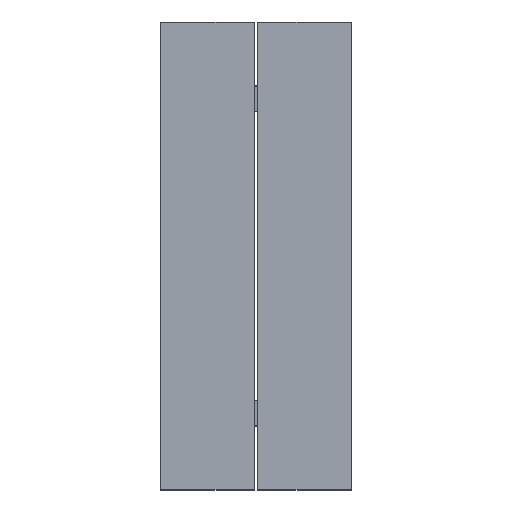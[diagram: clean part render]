
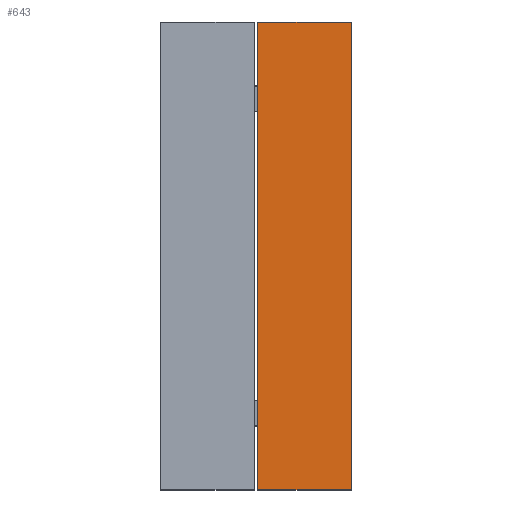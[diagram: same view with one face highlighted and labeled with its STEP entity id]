
A CAD part, top view. The second image highlights one B-rep face of the part: STEP entity #643.
In plain terms, the highlighted planar face has unit normal (0, 0, 1).
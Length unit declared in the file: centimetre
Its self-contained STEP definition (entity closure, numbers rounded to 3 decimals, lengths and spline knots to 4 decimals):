
#643=ADVANCED_FACE('',(#997),#4973,.T.);
#997=FACE_OUTER_BOUND('',#1351,.T.);
#1351=EDGE_LOOP('',(#2570,#2571,#2572,#2573));
#2570=ORIENTED_EDGE('',*,*,#3527,.F.);
#2571=ORIENTED_EDGE('',*,*,#3526,.F.);
#2572=ORIENTED_EDGE('',*,*,#3525,.F.);
#2573=ORIENTED_EDGE('',*,*,#3524,.F.);
#3524=EDGE_CURVE('',#4666,#4667,#4218,.T.);
#3525=EDGE_CURVE('',#4667,#4668,#4219,.T.);
#3526=EDGE_CURVE('',#4668,#4669,#4220,.T.);
#3527=EDGE_CURVE('',#4669,#4666,#4221,.T.);
#4218=B_SPLINE_CURVE_WITH_KNOTS('',1,(#8158,#8159),.UNSPECIFIED.,.F.,.F.,
(2,2),(0.1,219.9),.UNSPECIFIED.);
#4219=B_SPLINE_CURVE_WITH_KNOTS('',1,(#8160,#8161),.UNSPECIFIED.,.F.,.F.,
(2,2),(0.1,44.0377),.UNSPECIFIED.);
#4220=B_SPLINE_CURVE_WITH_KNOTS('',1,(#8162,#8163),.UNSPECIFIED.,.F.,.F.,
(2,2),(0.1,219.9),.UNSPECIFIED.);
#4221=B_SPLINE_CURVE_WITH_KNOTS('',1,(#8164,#8165),.UNSPECIFIED.,.F.,.F.,
(2,2),(0.1,44.0377),.UNSPECIFIED.);
#4666=VERTEX_POINT('',#8086);
#4667=VERTEX_POINT('',#8087);
#4668=VERTEX_POINT('',#8088);
#4669=VERTEX_POINT('',#8089);
#4973=PLANE('',#5199);
#5199=AXIS2_PLACEMENT_3D('',#7870,#5457,$);
#5457=DIRECTION('',(0.,0.,1.));
#7870=CARTESIAN_POINT('',(0.1123,0.,76.9848));
#8086=CARTESIAN_POINT('',(89.7877,219.9,76.9848));
#8087=CARTESIAN_POINT('',(89.7877,0.1,76.9848));
#8088=CARTESIAN_POINT('',(45.85,0.1,76.9848));
#8089=CARTESIAN_POINT('',(45.85,219.9,76.9848));
#8158=CARTESIAN_POINT('',(89.7877,219.9,76.9848));
#8159=CARTESIAN_POINT('',(89.7877,0.1,76.9848));
#8160=CARTESIAN_POINT('',(89.7877,0.1,76.9848));
#8161=CARTESIAN_POINT('',(45.85,0.1,76.9848));
#8162=CARTESIAN_POINT('',(45.85,0.1,76.9848));
#8163=CARTESIAN_POINT('',(45.85,219.9,76.9848));
#8164=CARTESIAN_POINT('',(45.85,219.9,76.9848));
#8165=CARTESIAN_POINT('',(89.7877,219.9,76.9848));
